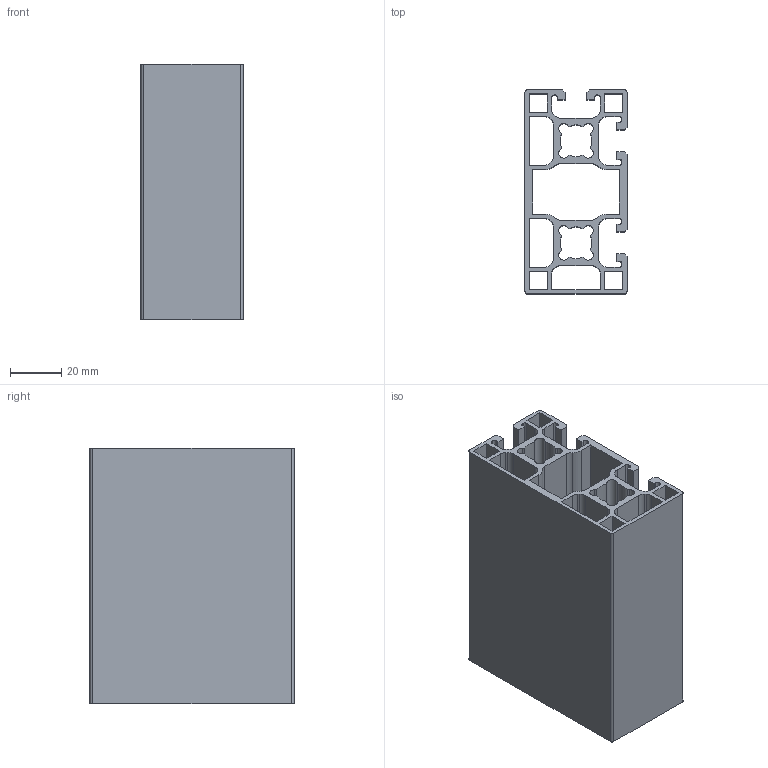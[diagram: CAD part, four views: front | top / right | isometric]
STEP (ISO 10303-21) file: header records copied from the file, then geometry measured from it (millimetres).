
FILE_DESCRIPTION((''),'2;1');
FILE_NAME('C:\Users\de2afr0\Desktop\New folder\MS40+ B - L 40x80.stp','2014-02-28T13:07:36',('de2afr0'),(''),'Autodesk Inventor 2011','Autodesk Inventor 2011','');
FILE_SCHEMA(('AUTOMOTIVE_DESIGN { 1 0 10303 214 1 1 1 1 }'));
Length unit declared in the file: millimetre
Products named in the file (1): MB01159401
Bounding box: 40 x 80 x 100 mm (x, y, z)
Volume: 93311.7 mm3; surface area: 88769.7 mm2
Topology: 1 solids, 1 shells, 180 faces, 534 edges, 356 vertices
Faces by surface type: plane 116, cylinder 64
Entity records: 6092 total; most frequent: CARTESIAN_POINT 1071, ORIENTED_EDGE 1068, DIRECTION 1024, EDGE_CURVE 534, VECTOR 406, LINE 406, VERTEX_POINT 356, AXIS2_PLACEMENT_3D 309
